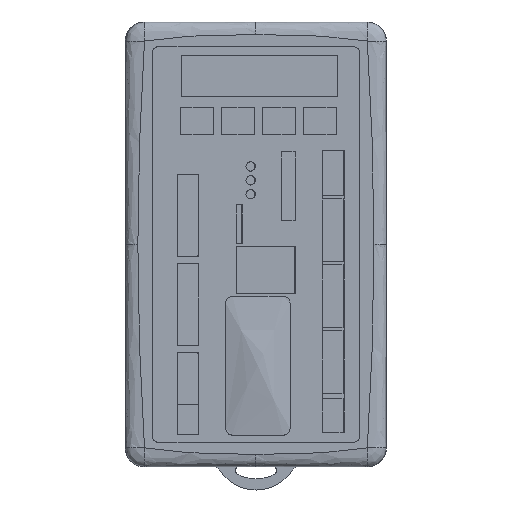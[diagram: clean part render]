
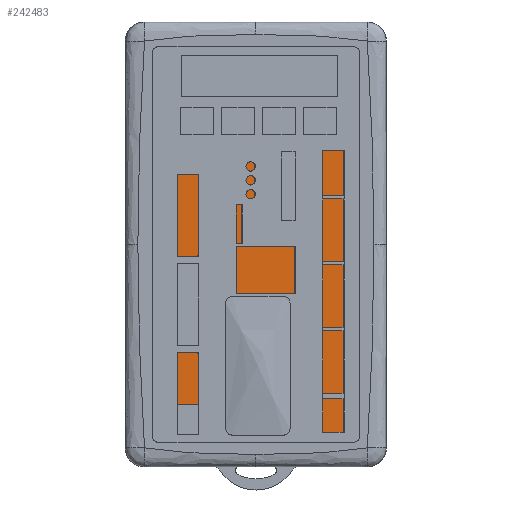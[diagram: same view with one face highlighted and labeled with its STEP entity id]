
A CAD part, top view. The second image highlights one B-rep face of the part: STEP entity #242483.
In plain terms, the highlighted planar face has unit normal (0, 0, 1).
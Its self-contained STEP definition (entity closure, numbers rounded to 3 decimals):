
#2339 = EDGE_CURVE ( 'NONE', #41097, #24383, #259815, .T. ) ;
#6988 = DIRECTION ( 'NONE',  ( -1., 0., 0. ) ) ;
#9243 = CARTESIAN_POINT ( 'NONE',  ( -37.715, -72.015, 0.1 ) ) ;
#19015 = ORIENTED_EDGE ( 'NONE', *, *, #2339, .T. ) ;
#22945 = VECTOR ( 'NONE', #60518, 1000. ) ;
#24383 = VERTEX_POINT ( 'NONE', #252107 ) ;
#28782 = CARTESIAN_POINT ( 'NONE',  ( 37.715, -72.015, 0.1 ) ) ;
#33607 = EDGE_CURVE ( 'NONE', #162308, #68719, #92652, .T. ) ;
#41097 = VERTEX_POINT ( 'NONE', #9243 ) ;
#42818 = VECTOR ( 'NONE', #6988, 1000. ) ;
#46011 = DIRECTION ( 'NONE',  ( -1., 0., 0. ) ) ;
#56031 = EDGE_CURVE ( 'NONE', #24383, #162308, #95400, .T. ) ;
#60518 = DIRECTION ( 'NONE',  ( 0., -1., 0. ) ) ;
#68719 = VERTEX_POINT ( 'NONE', #146591 ) ;
#75055 = CARTESIAN_POINT ( 'NONE',  ( -37.715, -72.015, 0.1 ) ) ;
#83559 = CARTESIAN_POINT ( 'NONE',  ( -37.715, -72.015, 0.1 ) ) ;
#92652 = LINE ( 'NONE', #197142, #42818 ) ;
#95400 = LINE ( 'NONE', #28782, #259873 ) ;
#99995 = LINE ( 'NONE', #83559, #22945 ) ;
#105143 = ORIENTED_EDGE ( 'NONE', *, *, #115985, .T. ) ;
#115985 = EDGE_CURVE ( 'NONE', #68719, #41097, #99995, .T. ) ;
#118502 = CARTESIAN_POINT ( 'NONE',  ( 37.715, 72.015, 0.1 ) ) ;
#128928 = PLANE ( 'NONE',  #157714 ) ;
#146591 = CARTESIAN_POINT ( 'NONE',  ( -37.715, 72.015, 0.1 ) ) ;
#157714 = AXIS2_PLACEMENT_3D ( 'NONE', #239859, #237175, #46011 ) ;
#157988 = DIRECTION ( 'NONE',  ( 1., 0., 0. ) ) ;
#162308 = VERTEX_POINT ( 'NONE', #118502 ) ;
#178207 = DIRECTION ( 'NONE',  ( 0., 1., 0. ) ) ;
#191815 = ORIENTED_EDGE ( 'NONE', *, *, #33607, .T. ) ;
#197142 = CARTESIAN_POINT ( 'NONE',  ( -37.715, 72.015, 0.1 ) ) ;
#204898 = EDGE_LOOP ( 'NONE', ( #220245, #191815, #105143, #19015 ) ) ;
#220245 = ORIENTED_EDGE ( 'NONE', *, *, #56031, .T. ) ;
#232170 = FACE_OUTER_BOUND ( 'NONE', #204898, .T. ) ;
#237175 = DIRECTION ( 'NONE',  ( 0., 0., -1. ) ) ;
#239859 = CARTESIAN_POINT ( 'NONE',  ( 0., 0., 0.1 ) ) ;
#242483 = ADVANCED_FACE ( 'NONE', ( #232170 ), #128928, .F. ) ;
#252107 = CARTESIAN_POINT ( 'NONE',  ( 37.715, -72.015, 0.1 ) ) ;
#259815 = LINE ( 'NONE', #75055, #261376 ) ;
#259873 = VECTOR ( 'NONE', #178207, 1000. ) ;
#261376 = VECTOR ( 'NONE', #157988, 1000. ) ;
